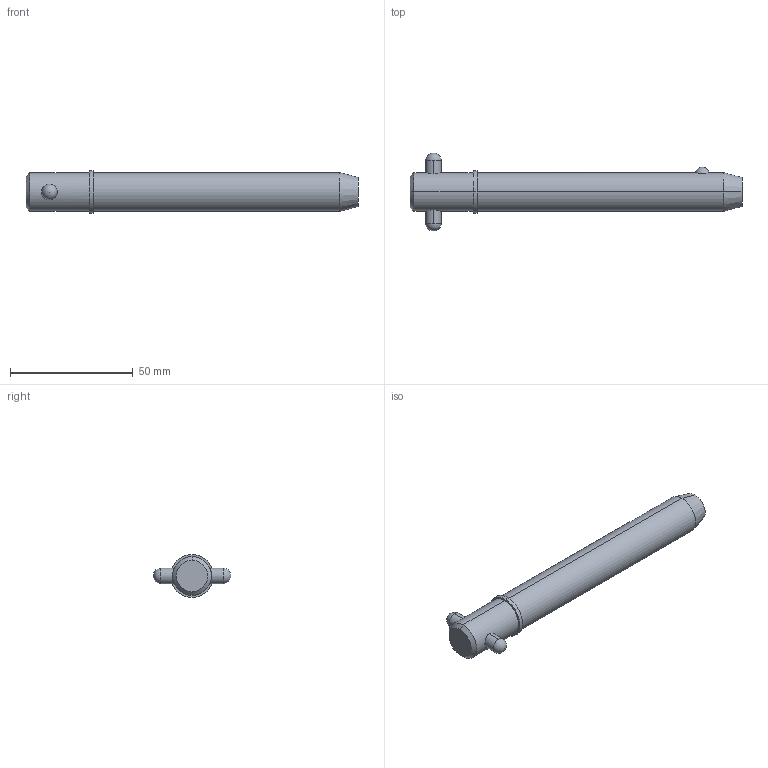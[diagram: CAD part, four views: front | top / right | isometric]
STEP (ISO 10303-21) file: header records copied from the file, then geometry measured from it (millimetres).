
FILE_DESCRIPTION (( 'STEP AP203' ), '1' );
FILE_NAME ('33018.W6235.step', '2024-11-19T17:18:42', ( '' ), ( '' ), 'SwSTEP 2.0', 'SolidWorks 2019', '' );
FILE_SCHEMA (( 'CONFIG_CONTROL_DESIGN' ));
Length unit declared in the file: millimetre
Products named in the file (3): Part2_33018.W6235; 33018.W6235; Part1_33018.W6235
Assembly tree (2 placements, depth 2):
  33018.W6235
    Part1_33018.W6235
    Part2_33018.W6235
Bounding box: 135.26 x 31.75 x 17.47 mm (x, y, z)
Volume: 26942 mm3; surface area: 7954.6 mm2
Topology: 2 solids, 2 shells, 22 faces, 47 edges, 30 vertices
Faces by surface type: cylinder 10, sphere 4, cone 4, plane 4
Entity records: 1047 total; most frequent: CARTESIAN_POINT 290, DIRECTION 110, ORIENTED_EDGE 82, AXIS2_PLACEMENT_3D 48, EDGE_CURVE 41, EDGE_LOOP 27, VERTEX_POINT 26, PERSON_AND_ORGANIZATION 26
